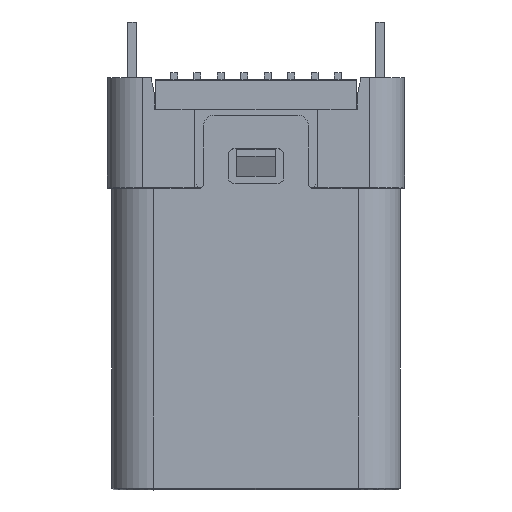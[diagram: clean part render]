
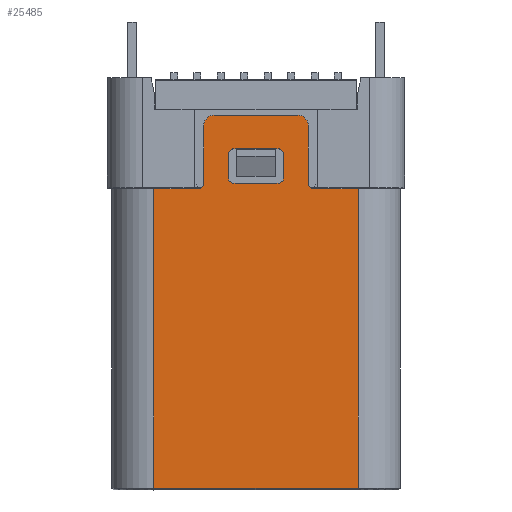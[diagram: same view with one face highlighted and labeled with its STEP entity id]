
A CAD part, top view. The second image highlights one B-rep face of the part: STEP entity #25485.
In plain terms, the highlighted planar face has unit normal (0, 0, 1).
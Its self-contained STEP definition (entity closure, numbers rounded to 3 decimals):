
#24448=CARTESIAN_POINT('',(3.6,8.221,0.9));
#24449=DIRECTION('',(0.,0.,-1.));
#24450=DIRECTION('',(-1.,0.,0.));
#24451=AXIS2_PLACEMENT_3D('',#24448,#24449,#24450);
#24453=CARTESIAN_POINT('',(6.,8.221,0.9));
#24454=DIRECTION('',(0.,0.,-1.));
#24455=DIRECTION('',(0.,1.,0.));
#24456=AXIS2_PLACEMENT_3D('',#24453,#24454,#24455);
#24458=CARTESIAN_POINT('',(6.45,6.571,0.9));
#24459=DIRECTION('',(0.,0.,1.));
#24460=DIRECTION('',(-1.,0.,0.));
#24461=AXIS2_PLACEMENT_3D('',#24458,#24459,#24460);
#24463=CARTESIAN_POINT('',(3.15,6.571,0.9));
#24464=DIRECTION('',(0.,0.,1.));
#24465=DIRECTION('',(0.,-1.,0.));
#24466=AXIS2_PLACEMENT_3D('',#24463,#24464,#24465);
#24468=CARTESIAN_POINT('',(4.2,7.368,0.9));
#24469=DIRECTION('',(0.,0.,1.));
#24470=DIRECTION('',(0.,1.,0.));
#24471=AXIS2_PLACEMENT_3D('',#24468,#24469,#24470);
#24473=CARTESIAN_POINT('',(4.2,6.768,0.9));
#24474=DIRECTION('',(0.,0.,1.));
#24475=DIRECTION('',(-1.,0.,0.));
#24476=AXIS2_PLACEMENT_3D('',#24473,#24474,#24475);
#24478=CARTESIAN_POINT('',(5.4,6.768,0.9));
#24479=DIRECTION('',(0.,0.,1.));
#24480=DIRECTION('',(0.,-1.,0.));
#24481=AXIS2_PLACEMENT_3D('',#24478,#24479,#24480);
#24483=CARTESIAN_POINT('',(5.4,7.368,0.9));
#24484=DIRECTION('',(0.,0.,1.));
#24485=DIRECTION('',(1.,0.,0.));
#24486=AXIS2_PLACEMENT_3D('',#24483,#24484,#24485);
#24590=DIRECTION('',(0.,-1.,0.));
#24591=VECTOR('',#24590,1.65);
#24592=CARTESIAN_POINT('',(3.3,8.221,0.9));
#24593=LINE('',#24592,#24591);
#24615=DIRECTION('',(-1.,0.,0.));
#24616=VECTOR('',#24615,1.275);
#24617=CARTESIAN_POINT('',(3.15,6.421,0.9));
#24618=LINE('',#24617,#24616);
#24884=DIRECTION('',(-1.,0.,0.));
#24885=VECTOR('',#24884,1.275);
#24886=CARTESIAN_POINT('',(7.725,6.421,0.9));
#24887=LINE('',#24886,#24885);
#24964=DIRECTION('',(1.,0.,0.));
#24965=VECTOR('',#24964,5.85);
#24966=CARTESIAN_POINT('',(1.875,-2.149,0.9));
#24967=LINE('',#24966,#24965);
#24986=DIRECTION('',(0.,1.,0.));
#24987=VECTOR('',#24986,8.57);
#24988=CARTESIAN_POINT('',(7.725,-2.149,0.9));
#24989=LINE('',#24988,#24987);
#25020=DIRECTION('',(0.,-1.,0.));
#25021=VECTOR('',#25020,8.57);
#25022=CARTESIAN_POINT('',(1.875,6.421,0.9));
#25023=LINE('',#25022,#25021);
#25075=DIRECTION('',(0.,1.,0.));
#25076=VECTOR('',#25075,1.65);
#25077=CARTESIAN_POINT('',(6.3,6.571,0.9));
#25078=LINE('',#25077,#25076);
#25108=DIRECTION('',(-1.,0.,0.));
#25109=VECTOR('',#25108,2.4);
#25110=CARTESIAN_POINT('',(6.,8.521,0.9));
#25111=LINE('',#25110,#25109);
#25164=DIRECTION('',(1.,0.,0.));
#25165=VECTOR('',#25164,1.2);
#25166=CARTESIAN_POINT('',(4.2,7.568,0.9));
#25167=LINE('',#25166,#25165);
#25176=DIRECTION('',(0.,1.,0.));
#25177=VECTOR('',#25176,0.6);
#25178=CARTESIAN_POINT('',(4.,6.768,0.9));
#25179=LINE('',#25178,#25177);
#25188=DIRECTION('',(-1.,0.,0.));
#25189=VECTOR('',#25188,1.2);
#25190=CARTESIAN_POINT('',(5.4,6.568,0.9));
#25191=LINE('',#25190,#25189);
#25200=DIRECTION('',(0.,-1.,0.));
#25201=VECTOR('',#25200,0.6);
#25202=CARTESIAN_POINT('',(5.6,7.368,0.9));
#25203=LINE('',#25202,#25201);
#25212=CARTESIAN_POINT('',(3.3,8.221,0.9));
#25213=CARTESIAN_POINT('',(3.6,8.521,0.9));
#25214=VERTEX_POINT('',#25212);
#25215=VERTEX_POINT('',#25213);
#25216=CARTESIAN_POINT('',(6.,8.521,0.9));
#25217=VERTEX_POINT('',#25216);
#25218=CARTESIAN_POINT('',(6.3,8.221,0.9));
#25219=VERTEX_POINT('',#25218);
#25220=CARTESIAN_POINT('',(6.3,6.571,0.9));
#25221=VERTEX_POINT('',#25220);
#25222=CARTESIAN_POINT('',(6.45,6.421,0.9));
#25223=VERTEX_POINT('',#25222);
#25224=CARTESIAN_POINT('',(7.725,6.421,0.9));
#25225=VERTEX_POINT('',#25224);
#25226=CARTESIAN_POINT('',(7.725,-2.149,0.9));
#25227=VERTEX_POINT('',#25226);
#25228=CARTESIAN_POINT('',(1.875,-2.149,0.9));
#25229=VERTEX_POINT('',#25228);
#25230=CARTESIAN_POINT('',(1.875,6.421,0.9));
#25231=VERTEX_POINT('',#25230);
#25232=CARTESIAN_POINT('',(3.15,6.421,0.9));
#25233=VERTEX_POINT('',#25232);
#25234=CARTESIAN_POINT('',(3.3,6.571,0.9));
#25235=VERTEX_POINT('',#25234);
#25236=CARTESIAN_POINT('',(4.2,7.568,0.9));
#25237=CARTESIAN_POINT('',(5.4,7.568,0.9));
#25238=VERTEX_POINT('',#25236);
#25239=VERTEX_POINT('',#25237);
#25240=CARTESIAN_POINT('',(4.,7.368,0.9));
#25241=VERTEX_POINT('',#25240);
#25242=CARTESIAN_POINT('',(4.,6.768,0.9));
#25243=VERTEX_POINT('',#25242);
#25244=CARTESIAN_POINT('',(4.2,6.568,0.9));
#25245=VERTEX_POINT('',#25244);
#25246=CARTESIAN_POINT('',(5.4,6.568,0.9));
#25247=VERTEX_POINT('',#25246);
#25248=CARTESIAN_POINT('',(5.6,6.768,0.9));
#25249=VERTEX_POINT('',#25248);
#25250=CARTESIAN_POINT('',(5.6,7.368,0.9));
#25251=VERTEX_POINT('',#25250);
#25436=CARTESIAN_POINT('',(-521.754,-288.851,
0.9));
#25437=DIRECTION('',(0.,0.,1.));
#25438=DIRECTION('',(1.,0.,0.));
#25439=AXIS2_PLACEMENT_3D('',#25436,#25437,#25438);
#25440=PLANE('',#25439);
#25442=ORIENTED_EDGE('',*,*,#25441,.T.);
#25444=ORIENTED_EDGE('',*,*,#25443,.F.);
#25446=ORIENTED_EDGE('',*,*,#25445,.T.);
#25448=ORIENTED_EDGE('',*,*,#25447,.F.);
#25450=ORIENTED_EDGE('',*,*,#25449,.T.);
#25452=ORIENTED_EDGE('',*,*,#25451,.F.);
#25454=ORIENTED_EDGE('',*,*,#25453,.F.);
#25456=ORIENTED_EDGE('',*,*,#25455,.F.);
#25458=ORIENTED_EDGE('',*,*,#25457,.F.);
#25460=ORIENTED_EDGE('',*,*,#25459,.F.);
#25462=ORIENTED_EDGE('',*,*,#25461,.T.);
#25464=ORIENTED_EDGE('',*,*,#25463,.F.);
#25465=EDGE_LOOP('',(#25442,#25444,#25446,#25448,#25450,#25452,#25454,#25456,
#25458,#25460,#25462,#25464));
#25466=FACE_OUTER_BOUND('',#25465,.F.);
#25468=ORIENTED_EDGE('',*,*,#25467,.F.);
#25470=ORIENTED_EDGE('',*,*,#25469,.T.);
#25472=ORIENTED_EDGE('',*,*,#25471,.F.);
#25474=ORIENTED_EDGE('',*,*,#25473,.T.);
#25476=ORIENTED_EDGE('',*,*,#25475,.F.);
#25478=ORIENTED_EDGE('',*,*,#25477,.T.);
#25480=ORIENTED_EDGE('',*,*,#25479,.F.);
#25482=ORIENTED_EDGE('',*,*,#25481,.T.);
#25483=EDGE_LOOP('',(#25468,#25470,#25472,#25474,#25476,#25478,#25480,#25482));
#25484=FACE_BOUND('',#25483,.F.);
#25485=ADVANCED_FACE('',(#25466,#25484),#25440,.T.);
#24452=CIRCLE('',#24451,0.3);
#24457=CIRCLE('',#24456,0.3);
#24462=CIRCLE('',#24461,0.15);
#24467=CIRCLE('',#24466,0.15);
#24472=CIRCLE('',#24471,0.2);
#24477=CIRCLE('',#24476,0.2);
#24482=CIRCLE('',#24481,0.2);
#24487=CIRCLE('',#24486,0.2);
#25441=EDGE_CURVE('',#25214,#25215,#24452,.T.);
#25443=EDGE_CURVE('',#25217,#25215,#25111,.T.);
#25445=EDGE_CURVE('',#25217,#25219,#24457,.T.);
#25447=EDGE_CURVE('',#25221,#25219,#25078,.T.);
#25449=EDGE_CURVE('',#25221,#25223,#24462,.T.);
#25451=EDGE_CURVE('',#25225,#25223,#24887,.T.);
#25453=EDGE_CURVE('',#25227,#25225,#24989,.T.);
#25455=EDGE_CURVE('',#25229,#25227,#24967,.T.);
#25457=EDGE_CURVE('',#25231,#25229,#25023,.T.);
#25459=EDGE_CURVE('',#25233,#25231,#24618,.T.);
#25461=EDGE_CURVE('',#25233,#25235,#24467,.T.);
#25463=EDGE_CURVE('',#25214,#25235,#24593,.T.);
#25467=EDGE_CURVE('',#25238,#25239,#25167,.T.);
#25469=EDGE_CURVE('',#25238,#25241,#24472,.T.);
#25471=EDGE_CURVE('',#25243,#25241,#25179,.T.);
#25473=EDGE_CURVE('',#25243,#25245,#24477,.T.);
#25475=EDGE_CURVE('',#25247,#25245,#25191,.T.);
#25477=EDGE_CURVE('',#25247,#25249,#24482,.T.);
#25479=EDGE_CURVE('',#25251,#25249,#25203,.T.);
#25481=EDGE_CURVE('',#25251,#25239,#24487,.T.);
